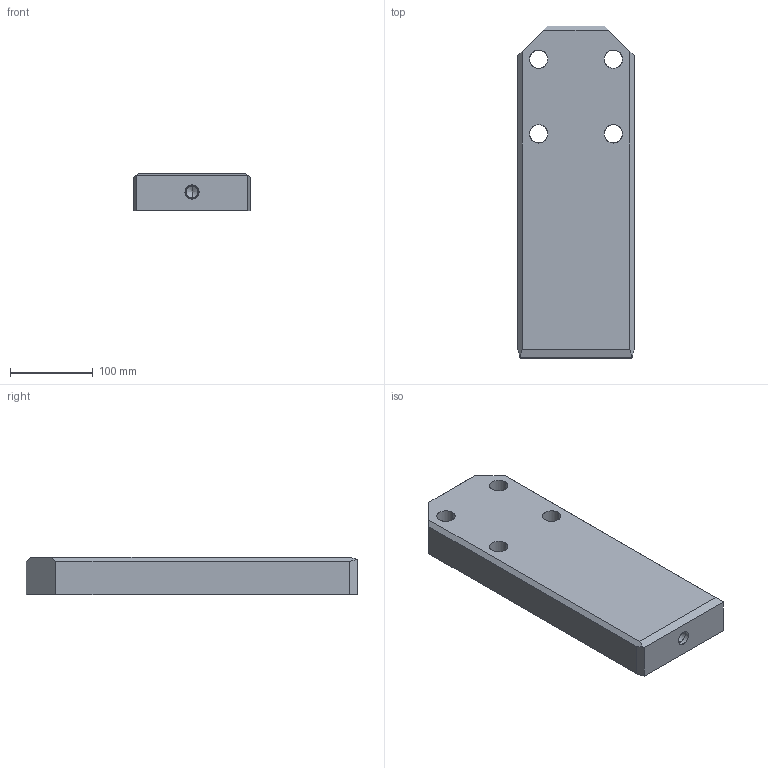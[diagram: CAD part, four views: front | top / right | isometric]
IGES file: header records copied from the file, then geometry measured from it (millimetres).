
Start section: START RECORD GO HERE.
Global section: file name: A927-140X400X45.igs; native system: DASSAULT SYSTEMES CATIA V5 R20 - www.3ds.com; preprocessor: CATIA Version 5 Release 20 ; author: Utente; organization: NB04-ASUS; date: 20200408.202232; units: millimetre
Bounding box: 140 x 400 x 45 mm (x, y, z)
Surface area: 167832.9 mm2 (no closed solid volume)
Topology: 0 solids, 0 shells, 52 faces, 242 edges, 240 vertices
Faces by surface type: revolution 32, extrusion 20
